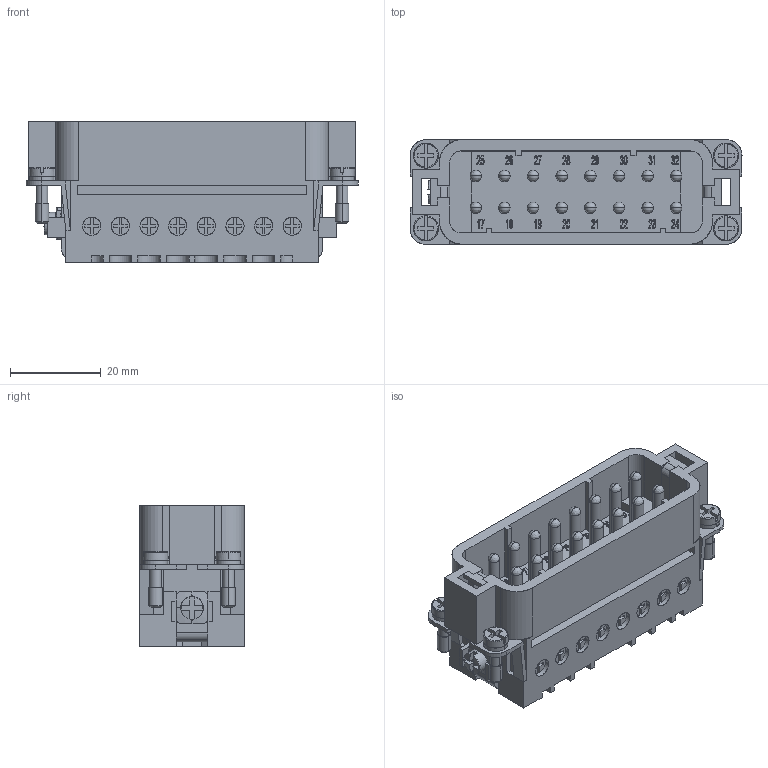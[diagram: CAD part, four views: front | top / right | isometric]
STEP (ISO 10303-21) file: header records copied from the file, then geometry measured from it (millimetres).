
FILE_DESCRIPTION (( 'STEP AP214' ), '1' );
FILE_NAME ('CDAM16N.STEP', '2016-08-02T15:41:53', ( 'richard gronsfeld' ), ( '' ), 'SwSTEP 2.0', 'SolidWorks 2007', '' );
FILE_SCHEMA (( 'AUTOMOTIVE_DESIGN' ));
Length unit declared in the file: millimetre
Products named in the file (1): CDAM16N
Bounding box: 73 x 23 x 31 mm (x, y, z)
Surface area: 20893.4 mm2 (no closed solid volume)
Topology: 0 solids, 1779 shells, 2057 faces, 10162 edges, 9833 vertices
Faces by surface type: plane 1119, bspline 610, cylinder 308, cone 10, torus 8, sphere 2
Entity records: 147836 total; most frequent: CARTESIAN_POINT 54200, DIRECTION 11046, ORIENTED_EDGE 10805, EDGE_CURVE 10095, VERTEX_POINT 9833, LINE 6224, VECTOR 6224, B_SPLINE_CURVE_WITH_KNOTS 2908
